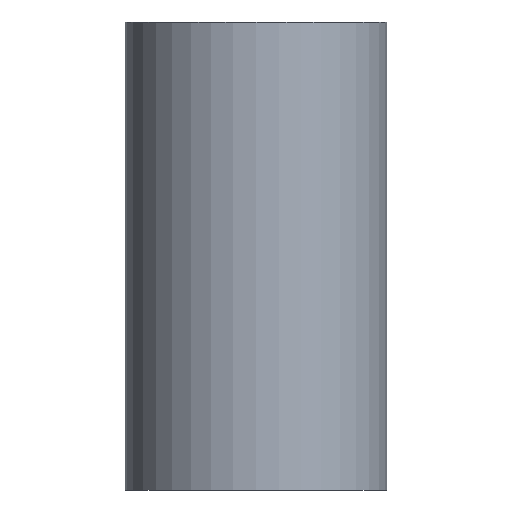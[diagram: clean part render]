
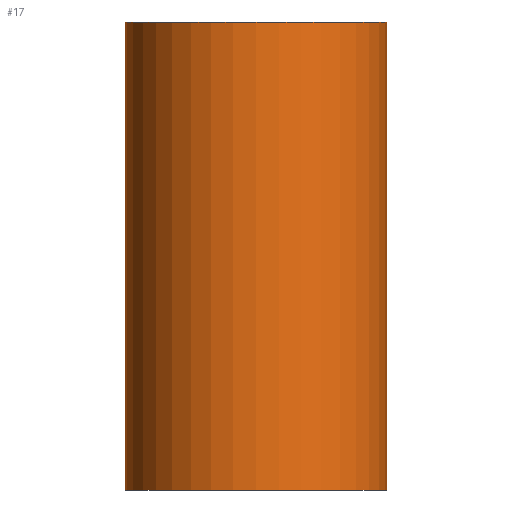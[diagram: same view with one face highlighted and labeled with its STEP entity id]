
A CAD part, left-side view. The second image highlights one B-rep face of the part: STEP entity #17.
In plain terms, the highlighted cylindrical face has radius 11 mm (diameter 22 mm), a partial arc.
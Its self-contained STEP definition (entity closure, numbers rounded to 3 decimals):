
#17 = ADVANCED_FACE('',(#18),#33,.T.);
#18 = FACE_BOUND('',#19,.F.);
#19 = EDGE_LOOP('',(#20,#56,#82,#111));
#20 = ORIENTED_EDGE('',*,*,#21,.F.);
#21 = EDGE_CURVE('',#22,#24,#26,.T.);
#22 = VERTEX_POINT('',#23);
#23 = CARTESIAN_POINT('',(9.5,5.545,0.));
#24 = VERTEX_POINT('',#25);
#25 = CARTESIAN_POINT('',(9.5,-5.545,0.));
#26 = SURFACE_CURVE('',#27,(#32,#44),.PCURVE_S1.);
#27 = CIRCLE('',#28,11.);
#28 = AXIS2_PLACEMENT_3D('',#29,#30,#31);
#29 = CARTESIAN_POINT('',(0.,0.,0.));
#30 = DIRECTION('',(0.,0.,1.));
#31 = DIRECTION('',(1.,0.,0.));
#32 = PCURVE('',#33,#38);
#33 = CYLINDRICAL_SURFACE('',#34,11.);
#34 = AXIS2_PLACEMENT_3D('',#35,#36,#37);
#35 = CARTESIAN_POINT('',(0.,0.,0.));
#36 = DIRECTION('',(-0.,-0.,-1.));
#37 = DIRECTION('',(1.,0.,0.));
#38 = DEFINITIONAL_REPRESENTATION('',(#39),#43);
#39 = LINE('',#40,#41);
#40 = CARTESIAN_POINT('',(-0.,0.));
#41 = VECTOR('',#42,1.);
#42 = DIRECTION('',(-1.,0.));
#43 = ( GEOMETRIC_REPRESENTATION_CONTEXT(2) 
PARAMETRIC_REPRESENTATION_CONTEXT() REPRESENTATION_CONTEXT('2D SPACE',''
  ) );
#44 = PCURVE('',#45,#50);
#45 = PLANE('',#46);
#46 = AXIS2_PLACEMENT_3D('',#47,#48,#49);
#47 = CARTESIAN_POINT('',(0.,0.,0.));
#48 = DIRECTION('',(0.,0.,1.));
#49 = DIRECTION('',(1.,0.,-0.));
#50 = DEFINITIONAL_REPRESENTATION('',(#51),#55);
#51 = CIRCLE('',#52,11.);
#52 = AXIS2_PLACEMENT_2D('',#53,#54);
#53 = CARTESIAN_POINT('',(0.,0.));
#54 = DIRECTION('',(1.,0.));
#55 = ( GEOMETRIC_REPRESENTATION_CONTEXT(2) 
PARAMETRIC_REPRESENTATION_CONTEXT() REPRESENTATION_CONTEXT('2D SPACE',''
  ) );
#56 = ORIENTED_EDGE('',*,*,#57,.F.);
#57 = EDGE_CURVE('',#58,#22,#60,.T.);
#58 = VERTEX_POINT('',#59);
#59 = CARTESIAN_POINT('',(9.5,5.545,39.4));
#60 = SURFACE_CURVE('',#61,(#65,#71),.PCURVE_S1.);
#61 = LINE('',#62,#63);
#62 = CARTESIAN_POINT('',(9.5,5.545,0.));
#63 = VECTOR('',#64,1.);
#64 = DIRECTION('',(-0.,-0.,-1.));
#65 = PCURVE('',#33,#66);
#66 = DEFINITIONAL_REPRESENTATION('',(#67),#70);
#67 = B_SPLINE_CURVE_WITH_KNOTS('',1,(#68,#69),.UNSPECIFIED.,.F.,.F.,(2,
    2),(-39.4,0.),.PIECEWISE_BEZIER_KNOTS.);
#68 = CARTESIAN_POINT('',(-0.528,-39.4));
#69 = CARTESIAN_POINT('',(-0.528,0.));
#70 = ( GEOMETRIC_REPRESENTATION_CONTEXT(2) 
PARAMETRIC_REPRESENTATION_CONTEXT() REPRESENTATION_CONTEXT('2D SPACE',''
  ) );
#71 = PCURVE('',#72,#77);
#72 = PLANE('',#73);
#73 = AXIS2_PLACEMENT_3D('',#74,#75,#76);
#74 = CARTESIAN_POINT('',(9.5,20.,0.));
#75 = DIRECTION('',(1.,0.,-0.));
#76 = DIRECTION('',(0.,-1.,0.));
#77 = DEFINITIONAL_REPRESENTATION('',(#78),#81);
#78 = B_SPLINE_CURVE_WITH_KNOTS('',1,(#79,#80),.UNSPECIFIED.,.F.,.F.,(2,
    2),(-39.4,0.),.PIECEWISE_BEZIER_KNOTS.);
#79 = CARTESIAN_POINT('',(14.455,-39.4));
#80 = CARTESIAN_POINT('',(14.455,0.));
#81 = ( GEOMETRIC_REPRESENTATION_CONTEXT(2) 
PARAMETRIC_REPRESENTATION_CONTEXT() REPRESENTATION_CONTEXT('2D SPACE',''
  ) );
#82 = ORIENTED_EDGE('',*,*,#83,.T.);
#83 = EDGE_CURVE('',#58,#84,#86,.T.);
#84 = VERTEX_POINT('',#85);
#85 = CARTESIAN_POINT('',(9.5,-5.545,39.4));
#86 = SURFACE_CURVE('',#87,(#92,#99),.PCURVE_S1.);
#87 = CIRCLE('',#88,11.);
#88 = AXIS2_PLACEMENT_3D('',#89,#90,#91);
#89 = CARTESIAN_POINT('',(0.,0.,39.4));
#90 = DIRECTION('',(0.,0.,1.));
#91 = DIRECTION('',(1.,0.,0.));
#92 = PCURVE('',#33,#93);
#93 = DEFINITIONAL_REPRESENTATION('',(#94),#98);
#94 = LINE('',#95,#96);
#95 = CARTESIAN_POINT('',(-0.,-39.4));
#96 = VECTOR('',#97,1.);
#97 = DIRECTION('',(-1.,0.));
#98 = ( GEOMETRIC_REPRESENTATION_CONTEXT(2) 
PARAMETRIC_REPRESENTATION_CONTEXT() REPRESENTATION_CONTEXT('2D SPACE',''
  ) );
#99 = PCURVE('',#100,#105);
#100 = PLANE('',#101);
#101 = AXIS2_PLACEMENT_3D('',#102,#103,#104);
#102 = CARTESIAN_POINT('',(0.,0.,39.4)
  );
#103 = DIRECTION('',(0.,0.,1.));
#104 = DIRECTION('',(1.,0.,-0.));
#105 = DEFINITIONAL_REPRESENTATION('',(#106),#110);
#106 = CIRCLE('',#107,11.);
#107 = AXIS2_PLACEMENT_2D('',#108,#109);
#108 = CARTESIAN_POINT('',(0.,0.));
#109 = DIRECTION('',(1.,0.));
#110 = ( GEOMETRIC_REPRESENTATION_CONTEXT(2) 
PARAMETRIC_REPRESENTATION_CONTEXT() REPRESENTATION_CONTEXT('2D SPACE',''
  ) );
#111 = ORIENTED_EDGE('',*,*,#112,.T.);
#112 = EDGE_CURVE('',#84,#24,#113,.T.);
#113 = SURFACE_CURVE('',#114,(#118,#124),.PCURVE_S1.);
#114 = LINE('',#115,#116);
#115 = CARTESIAN_POINT('',(9.5,-5.545,0.));
#116 = VECTOR('',#117,1.);
#117 = DIRECTION('',(-0.,-0.,-1.));
#118 = PCURVE('',#33,#119);
#119 = DEFINITIONAL_REPRESENTATION('',(#120),#123);
#120 = B_SPLINE_CURVE_WITH_KNOTS('',1,(#121,#122),.UNSPECIFIED.,.F.,.F.,
  (2,2),(-39.4,0.),.PIECEWISE_BEZIER_KNOTS.);
#121 = CARTESIAN_POINT('',(-5.755,-39.4));
#122 = CARTESIAN_POINT('',(-5.755,0.));
#123 = ( GEOMETRIC_REPRESENTATION_CONTEXT(2) 
PARAMETRIC_REPRESENTATION_CONTEXT() REPRESENTATION_CONTEXT('2D SPACE',''
  ) );
#124 = PCURVE('',#72,#125);
#125 = DEFINITIONAL_REPRESENTATION('',(#126),#129);
#126 = B_SPLINE_CURVE_WITH_KNOTS('',1,(#127,#128),.UNSPECIFIED.,.F.,.F.,
  (2,2),(-39.4,0.),.PIECEWISE_BEZIER_KNOTS.);
#127 = CARTESIAN_POINT('',(25.545,-39.4));
#128 = CARTESIAN_POINT('',(25.545,0.));
#129 = ( GEOMETRIC_REPRESENTATION_CONTEXT(2) 
PARAMETRIC_REPRESENTATION_CONTEXT() REPRESENTATION_CONTEXT('2D SPACE',''
  ) );
